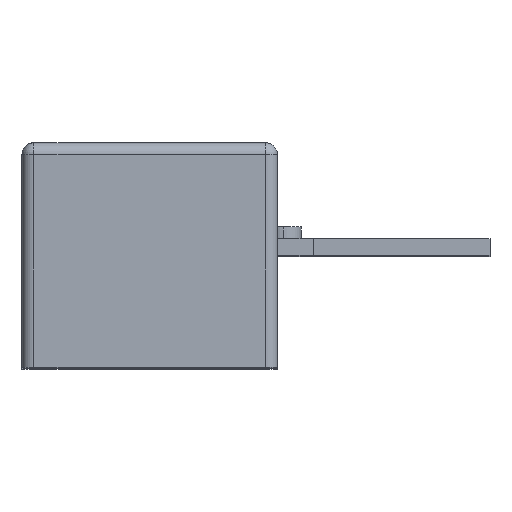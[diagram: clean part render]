
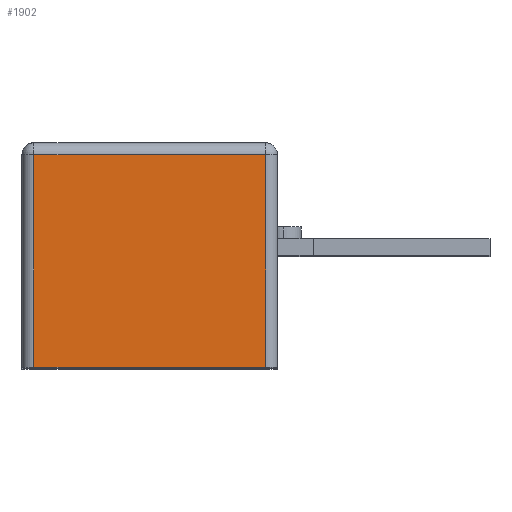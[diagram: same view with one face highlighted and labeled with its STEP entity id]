
A CAD part, top view. The second image highlights one B-rep face of the part: STEP entity #1902.
In plain terms, the highlighted planar face has unit normal (0, 0, 1).
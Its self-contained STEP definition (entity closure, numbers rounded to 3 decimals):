
#466 = LINE ( 'NONE', #467, #745 ) ;
#467 = CARTESIAN_POINT ( 'NONE',  ( -5.35, 8.9, 23.5 ) ) ;
#468 = DIRECTION ( 'NONE',  ( -1., 0., 0. ) ) ;
#478 = LINE ( 'NONE', #479, #880 ) ;
#479 = CARTESIAN_POINT ( 'NONE',  ( 4.85, 9.4, 23.5 ) ) ;
#480 = DIRECTION ( 'NONE',  ( 0., 1., 0. ) ) ;
#745 = VECTOR ( 'NONE', #468, 1000. ) ;
#880 = VECTOR ( 'NONE', #480, 1000. ) ;
#913 = VERTEX_POINT ( 'NONE', #1531 ) ;
#920 = VERTEX_POINT ( 'NONE', #1538 ) ;
#922 = VERTEX_POINT ( 'NONE', #1540 ) ;
#935 = VERTEX_POINT ( 'NONE', #1553 ) ;
#1039 = EDGE_LOOP ( 'NONE', ( #1419, #1415, #1420, #1418 ) ) ;
#1415 = ORIENTED_EDGE ( 'NONE', *, *, #1863, .T. ) ;
#1418 = ORIENTED_EDGE ( 'NONE', *, *, #2109, .T. ) ;
#1419 = ORIENTED_EDGE ( 'NONE', *, *, #2105, .T. ) ;
#1420 = ORIENTED_EDGE ( 'NONE', *, *, #1894, .T. ) ;
#1531 = CARTESIAN_POINT ( 'NONE',  ( 4.85, 8.9, 23.5 ) ) ;
#1538 = CARTESIAN_POINT ( 'NONE',  ( -4.85, 8.9, 23.5 ) ) ;
#1540 = CARTESIAN_POINT ( 'NONE',  ( -4.85, 0., 23.5 ) ) ;
#1553 = CARTESIAN_POINT ( 'NONE',  ( 4.85, 0., 23.5 ) ) ;
#1653 = LINE ( 'NONE', #1654, #2210 ) ;
#1654 = CARTESIAN_POINT ( 'NONE',  ( -4.85, 9.4, 23.5 ) ) ;
#1655 = DIRECTION ( 'NONE',  ( 0., -1., 0. ) ) ;
#1737 = LINE ( 'NONE', #1738, #2340 ) ;
#1738 = CARTESIAN_POINT ( 'NONE',  ( -5.35, 0., 23.5 ) ) ;
#1739 = DIRECTION ( 'NONE',  ( 1., 0., 0. ) ) ;
#1766 = PLANE ( 'NONE',  #2316 ) ;
#1767 = CARTESIAN_POINT ( 'NONE',  ( -5.35, 9.4, 23.5 ) ) ;
#1768 = DIRECTION ( 'NONE',  ( 0., 0., -1. ) ) ;
#1769 = DIRECTION ( 'NONE',  ( -1., 0., 0. ) ) ;
#1863 = EDGE_CURVE ( 'NONE', #920, #922, #1653, .T. ) ;
#1894 = EDGE_CURVE ( 'NONE', #922, #935, #1737, .T. ) ;
#1902 = ADVANCED_FACE ( 'NONE', ( #2337 ), #1766, .F. ) ;
#2105 = EDGE_CURVE ( 'NONE', #913, #920, #466, .T. ) ;
#2109 = EDGE_CURVE ( 'NONE', #935, #913, #478, .T. ) ;
#2210 = VECTOR ( 'NONE', #1655, 1000. ) ;
#2316 = AXIS2_PLACEMENT_3D ( 'NONE', #1767, #1768, #1769 ) ;
#2337 = FACE_OUTER_BOUND ( 'NONE', #1039, .T. ) ;
#2340 = VECTOR ( 'NONE', #1739, 1000. ) ;
